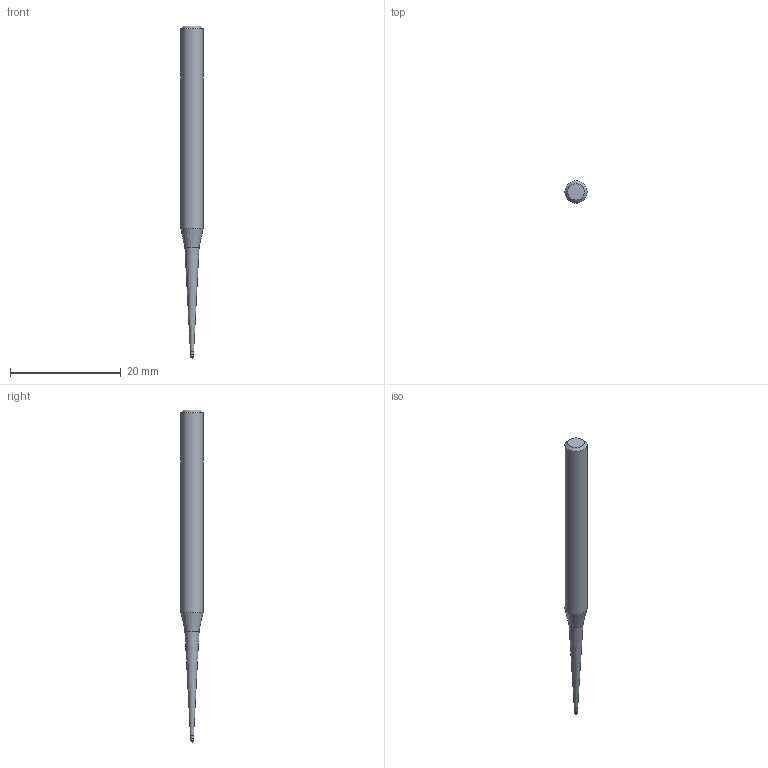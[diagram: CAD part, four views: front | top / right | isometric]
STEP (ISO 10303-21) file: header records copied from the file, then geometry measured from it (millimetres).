
FILE_DESCRIPTION((''),'2;1');
FILE_NAME('C:\Users\nsx150\AppData\Local\Temp\Mastercam 2021\SNAKH10GOD\TEMP.step','2021-10-21T13:31:44',(''),(''),'STEP Write','Mastercam 2021 ... CNC Software, Inc.','');
FILE_SCHEMA(('AUTOMOTIVE_DESIGN'));
Length unit declared in the file: millimetre
Products named in the file (1): None
Bounding box: 4 x 4 x 60 mm (x, y, z)
Volume: 529.8 mm3; surface area: 600.5 mm2
Topology: 2 solids, 2 shells, 10 faces, 16 edges, 9 vertices
Faces by surface type: plane 3, cylinder 3, cone 3, sphere 1
Full cylindrical faces by diameter (mm): 0.585 x1, 0.6 x1, 4 x1
Entity records: 232 total; most frequent: DIRECTION 40, CARTESIAN_POINT 28, AXIS2_PLACEMENT_3D 20, ORIENTED_EDGE 16, EDGE_LOOP 16, STYLED_ITEM 13, ADVANCED_FACE 10, FACE_BOUND 9
